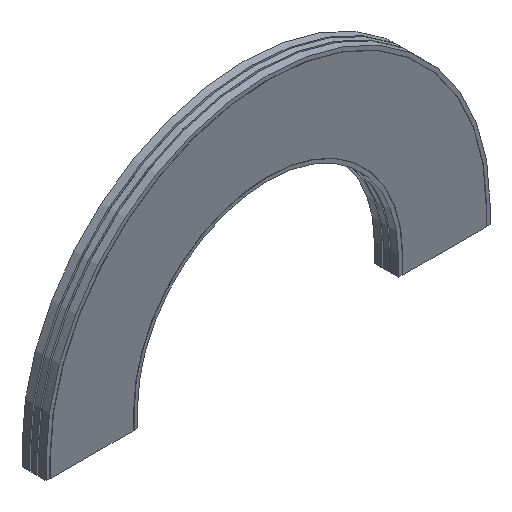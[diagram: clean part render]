
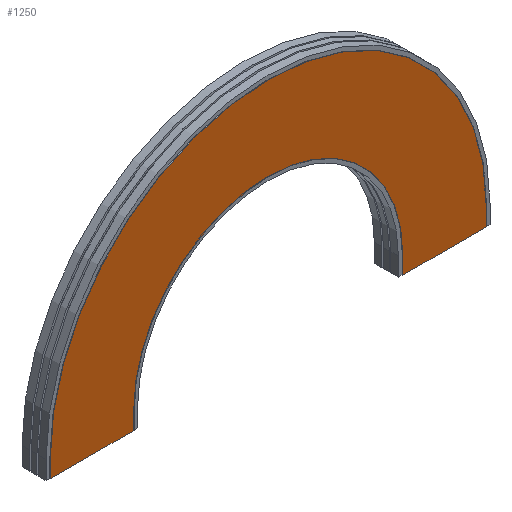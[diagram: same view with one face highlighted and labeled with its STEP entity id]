
A CAD part, isometric view. The second image highlights one B-rep face of the part: STEP entity #1250.
In plain terms, the highlighted planar face has unit normal (0, -1, 0).
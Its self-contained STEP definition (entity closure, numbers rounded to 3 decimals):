
#113 = DIRECTION ( 'NONE',  ( 0., 0., 1. ) ) ;
#115 = CARTESIAN_POINT ( 'NONE',  ( 0., -68., 0. ) ) ;
#116 = DIRECTION ( 'NONE',  ( 0., 1., 0. ) ) ;
#117 = DIRECTION ( 'NONE',  ( -1., 0., 0. ) ) ;
#120 = CARTESIAN_POINT ( 'NONE',  ( 0., -68., -100. ) ) ;
#121 = CARTESIAN_POINT ( 'NONE',  ( 0., -68., -100. ) ) ;
#122 = CARTESIAN_POINT ( 'NONE',  ( -1188.6, -68., -100. ) ) ;
#123 = CARTESIAN_POINT ( 'NONE',  ( 0., -68., 0. ) ) ;
#124 = DIRECTION ( 'NONE',  ( 0., 1., 0. ) ) ;
#125 = DIRECTION ( 'NONE',  ( -1., 0., 0. ) ) ;
#126 = DIRECTION ( 'NONE',  ( -1., 0., 0. ) ) ;
#127 = CARTESIAN_POINT ( 'NONE',  ( -731.4, -68., -100. ) ) ;
#128 = DIRECTION ( 'NONE',  ( 0., 0., 1. ) ) ;
#129 = CARTESIAN_POINT ( 'NONE',  ( 731.4, -68., -100. ) ) ;
#131 = DIRECTION ( 'NONE',  ( 0., 0., 1. ) ) ;
#132 = DIRECTION ( 'NONE',  ( -1., 0., 0. ) ) ;
#133 = CARTESIAN_POINT ( 'NONE',  ( 1188.6, -68., -100. ) ) ;
#134 = DIRECTION ( 'NONE',  ( 0., 0., 1. ) ) ;
#275 = CARTESIAN_POINT ( 'NONE',  ( -731.4, -68., 0. ) ) ;
#277 = PLANE ( 'NONE',  #881 ) ;
#279 = DIRECTION ( 'NONE',  ( 0., 1., 0. ) ) ;
#280 = DIRECTION ( 'NONE',  ( -1., 0., 0. ) ) ;
#466 = CARTESIAN_POINT ( 'NONE',  ( 1188.6, -68., 0. ) ) ;
#469 = CARTESIAN_POINT ( 'NONE',  ( 1188.6, -68., -100. ) ) ;
#472 = CARTESIAN_POINT ( 'NONE',  ( -731.4, -68., 0. ) ) ;
#475 = CARTESIAN_POINT ( 'NONE',  ( -1188.6, -68., 0. ) ) ;
#476 = CARTESIAN_POINT ( 'NONE',  ( 731.4, -68., 0. ) ) ;
#482 = CARTESIAN_POINT ( 'NONE',  ( -731.4, -68., -100. ) ) ;
#483 = CARTESIAN_POINT ( 'NONE',  ( -1188.6, -68., -100. ) ) ;
#489 = CARTESIAN_POINT ( 'NONE',  ( 731.4, -68., -100. ) ) ;
#856 = AXIS2_PLACEMENT_3D ( 'NONE', #115, #116, #117 ) ;
#857 = AXIS2_PLACEMENT_3D ( 'NONE', #123, #124, #125 ) ;
#881 = AXIS2_PLACEMENT_3D ( 'NONE', #275, #279, #280 ) ;
#998 = EDGE_LOOP ( 'NONE', ( #1056, #1057, #1058, #1059, #1060, #1061, #1062, #1063 ) ) ;
#1056 = ORIENTED_EDGE ( 'NONE', *, *, #1187, .F. ) ;
#1057 = ORIENTED_EDGE ( 'NONE', *, *, #1188, .F. ) ;
#1058 = ORIENTED_EDGE ( 'NONE', *, *, #1189, .F. ) ;
#1059 = ORIENTED_EDGE ( 'NONE', *, *, #1190, .T. ) ;
#1060 = ORIENTED_EDGE ( 'NONE', *, *, #1184, .T. ) ;
#1061 = ORIENTED_EDGE ( 'NONE', *, *, #1191, .F. ) ;
#1062 = ORIENTED_EDGE ( 'NONE', *, *, #1192, .F. ) ;
#1063 = ORIENTED_EDGE ( 'NONE', *, *, #1193, .T. ) ;
#1184 = EDGE_CURVE ( 'NONE', #1418, #1422, #1779, .T. ) ;
#1187 = EDGE_CURVE ( 'NONE', #1421, #1412, #1784, .T. ) ;
#1188 = EDGE_CURVE ( 'NONE', #1429, #1421, #1781, .T. ) ;
#1189 = EDGE_CURVE ( 'NONE', #1428, #1429, #1786, .T. ) ;
#1190 = EDGE_CURVE ( 'NONE', #1428, #1418, #1789, .T. ) ;
#1191 = EDGE_CURVE ( 'NONE', #1435, #1422, #1791, .T. ) ;
#1192 = EDGE_CURVE ( 'NONE', #1415, #1435, #1787, .T. ) ;
#1193 = EDGE_CURVE ( 'NONE', #1415, #1412, #1795, .T. ) ;
#1250 = ADVANCED_FACE ( 'NONE', ( #1893 ), #277, .F. ) ;
#1412 = VERTEX_POINT ( 'NONE', #466 ) ;
#1415 = VERTEX_POINT ( 'NONE', #469 ) ;
#1418 = VERTEX_POINT ( 'NONE', #472 ) ;
#1421 = VERTEX_POINT ( 'NONE', #475 ) ;
#1422 = VERTEX_POINT ( 'NONE', #476 ) ;
#1428 = VERTEX_POINT ( 'NONE', #482 ) ;
#1429 = VERTEX_POINT ( 'NONE', #483 ) ;
#1435 = VERTEX_POINT ( 'NONE', #489 ) ;
#1779 = CIRCLE ( 'NONE', #856, 731.4 ) ;
#1781 = LINE ( 'NONE', #122, #1788 ) ;
#1784 = CIRCLE ( 'NONE', #857, 1188.6 ) ;
#1786 = LINE ( 'NONE', #120, #1790 ) ;
#1787 = LINE ( 'NONE', #121, #1796 ) ;
#1788 = VECTOR ( 'NONE', #113, 1000. ) ;
#1789 = LINE ( 'NONE', #127, #1792 ) ;
#1790 = VECTOR ( 'NONE', #126, 1000. ) ;
#1791 = LINE ( 'NONE', #129, #1794 ) ;
#1792 = VECTOR ( 'NONE', #128, 1000. ) ;
#1794 = VECTOR ( 'NONE', #131, 1000. ) ;
#1795 = LINE ( 'NONE', #133, #1798 ) ;
#1796 = VECTOR ( 'NONE', #132, 1000. ) ;
#1798 = VECTOR ( 'NONE', #134, 1000. ) ;
#1893 = FACE_OUTER_BOUND ( 'NONE', #998, .T. ) ;
